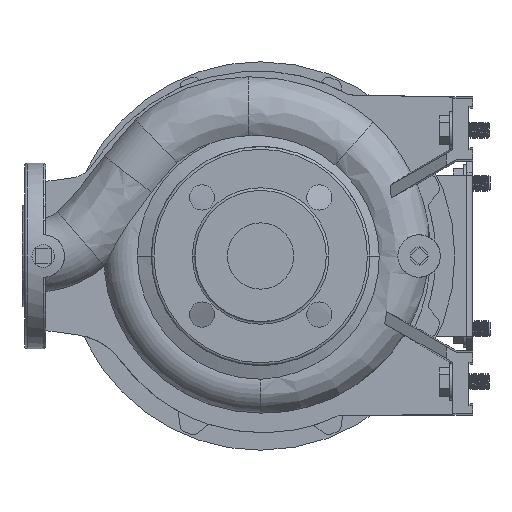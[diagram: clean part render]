
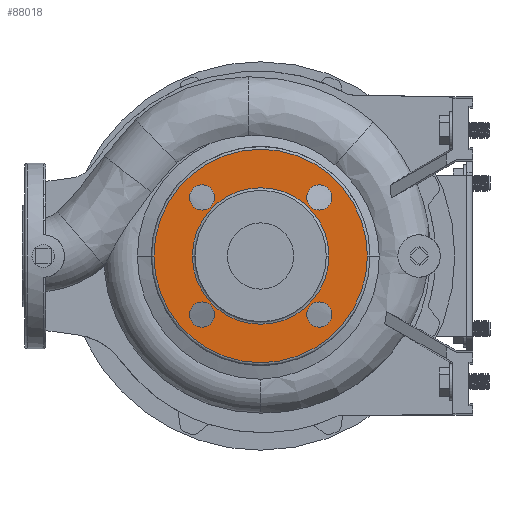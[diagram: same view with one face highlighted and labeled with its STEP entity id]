
A CAD part, left-side view. The second image highlights one B-rep face of the part: STEP entity #88018.
In plain terms, the highlighted planar face has unit normal (-1, 0, 0).
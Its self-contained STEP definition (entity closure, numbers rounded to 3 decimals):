
#1538 = CIRCLE ( 'NONE', #72734, 9.5 ) ;
#2069 = CARTESIAN_POINT ( 'NONE',  ( -78., 53.694, 44.194 ) ) ;
#2761 = VERTEX_POINT ( 'NONE', #114961 ) ;
#9303 = DIRECTION ( 'NONE',  ( 0., 0., -1. ) ) ;
#9353 = AXIS2_PLACEMENT_3D ( 'NONE', #168837, #165267, #97165 ) ;
#11106 = EDGE_CURVE ( 'NONE', #2761, #126364, #74223, .T. ) ;
#11445 = DIRECTION ( 'NONE',  ( -1., 0., 0. ) ) ;
#11639 = CARTESIAN_POINT ( 'NONE',  ( -78., 34.694, -44.194 ) ) ;
#12555 = DIRECTION ( 'NONE',  ( -1., 0., 0. ) ) ;
#14745 = VERTEX_POINT ( 'NONE', #135021 ) ;
#17141 = ORIENTED_EDGE ( 'NONE', *, *, #29037, .T. ) ;
#23513 = CARTESIAN_POINT ( 'NONE',  ( -78., 0., 0. ) ) ;
#24641 = CARTESIAN_POINT ( 'NONE',  ( -78., -53.694, -44.194 ) ) ;
#25511 = CIRCLE ( 'NONE', #173951, 9.5 ) ;
#26065 = CARTESIAN_POINT ( 'NONE',  ( -78., 44.194, -44.194 ) ) ;
#27038 = DIRECTION ( 'NONE',  ( 0., -1., 0. ) ) ;
#29037 = EDGE_CURVE ( 'NONE', #46709, #36636, #108275, .T. ) ;
#30869 = EDGE_LOOP ( 'NONE', ( #123791, #165277 ) ) ;
#36275 = FACE_OUTER_BOUND ( 'NONE', #173155, .T. ) ;
#36444 = CARTESIAN_POINT ( 'NONE',  ( -78., -44.194, 44.194 ) ) ;
#36636 = VERTEX_POINT ( 'NONE', #175436 ) ;
#37236 = FACE_BOUND ( 'NONE', #153064, .T. ) ;
#38169 = AXIS2_PLACEMENT_3D ( 'NONE', #43516, #12555, #161632 ) ;
#38207 = FACE_BOUND ( 'NONE', #43907, .T. ) ;
#38968 = AXIS2_PLACEMENT_3D ( 'NONE', #23513, #98024, #82557 ) ;
#43516 = CARTESIAN_POINT ( 'NONE',  ( -78., 0., 0. ) ) ;
#43907 = EDGE_LOOP ( 'NONE', ( #124056, #131622 ) ) ;
#46709 = VERTEX_POINT ( 'NONE', #50840 ) ;
#50826 = FACE_BOUND ( 'NONE', #95373, .T. ) ;
#50840 = CARTESIAN_POINT ( 'NONE',  ( -78., 80.5, 0. ) ) ;
#50994 = CARTESIAN_POINT ( 'NONE',  ( -78., -51.5, 0. ) ) ;
#51832 = CIRCLE ( 'NONE', #150752, 9.5 ) ;
#52522 = AXIS2_PLACEMENT_3D ( 'NONE', #172036, #186579, #53960 ) ;
#52733 = DIRECTION ( 'NONE',  ( 0., 1., 0. ) ) ;
#53960 = DIRECTION ( 'NONE',  ( 0., 0., -1. ) ) ;
#55139 = CARTESIAN_POINT ( 'NONE',  ( -78., 0., 0. ) ) ;
#58935 = DIRECTION ( 'NONE',  ( -1., 0., 0. ) ) ;
#60202 = EDGE_CURVE ( 'NONE', #14745, #126103, #167586, .T. ) ;
#61339 = DIRECTION ( 'NONE',  ( -1., 0., 0. ) ) ;
#62135 = AXIS2_PLACEMENT_3D ( 'NONE', #110810, #97254, #52733 ) ;
#67275 = FACE_BOUND ( 'NONE', #178079, .T. ) ;
#67415 = CARTESIAN_POINT ( 'NONE',  ( -78., 44.194, 44.194 ) ) ;
#71709 = ORIENTED_EDGE ( 'NONE', *, *, #129389, .F. ) ;
#72734 = AXIS2_PLACEMENT_3D ( 'NONE', #133201, #118689, #177742 ) ;
#74223 = CIRCLE ( 'NONE', #52522, 9.5 ) ;
#75804 = CARTESIAN_POINT ( 'NONE',  ( -78., 34.694, 44.194 ) ) ;
#78662 = CIRCLE ( 'NONE', #186861, 9.5 ) ;
#78946 = EDGE_CURVE ( 'NONE', #36636, #46709, #167936, .T. ) ;
#82243 = CARTESIAN_POINT ( 'NONE',  ( -78., 44.194, -44.194 ) ) ;
#82557 = DIRECTION ( 'NONE',  ( 0., -1., 0. ) ) ;
#82861 = DIRECTION ( 'NONE',  ( -1., 0., 0. ) ) ;
#83119 = CARTESIAN_POINT ( 'NONE',  ( -78., 0., 0. ) ) ;
#83177 = DIRECTION ( 'NONE',  ( 0., 0., 1. ) ) ;
#83702 = AXIS2_PLACEMENT_3D ( 'NONE', #55139, #100605, #27038 ) ;
#84000 = ORIENTED_EDGE ( 'NONE', *, *, #60202, .F. ) ;
#84079 = DIRECTION ( 'NONE',  ( 0., -1., 0. ) ) ;
#85850 = EDGE_CURVE ( 'NONE', #119959, #112572, #114467, .T. ) ;
#88018 = ADVANCED_FACE ( 'NONE', ( #67275, #38207, #50826, #94391, #37236, #36275 ), #154397, .F. ) ;
#89359 = VERTEX_POINT ( 'NONE', #2069 ) ;
#92838 = CARTESIAN_POINT ( 'NONE',  ( -78., -53.694, 44.194 ) ) ;
#93233 = DIRECTION ( 'NONE',  ( 0., -1., 0. ) ) ;
#94391 = FACE_BOUND ( 'NONE', #30869, .T. ) ;
#94533 = DIRECTION ( 'NONE',  ( 0., -1., 0. ) ) ;
#95373 = EDGE_LOOP ( 'NONE', ( #126195, #84000 ) ) ;
#96514 = VERTEX_POINT ( 'NONE', #75804 ) ;
#97165 = DIRECTION ( 'NONE',  ( 0., 1., 0. ) ) ;
#97254 = DIRECTION ( 'NONE',  ( 1., 0., 0. ) ) ;
#98024 = DIRECTION ( 'NONE',  ( -1., 0., 0. ) ) ;
#98345 = DIRECTION ( 'NONE',  ( -1., 0., 0. ) ) ;
#100605 = DIRECTION ( 'NONE',  ( -1., 0., 0. ) ) ;
#102631 = AXIS2_PLACEMENT_3D ( 'NONE', #26065, #58935, #146095 ) ;
#102972 = ORIENTED_EDGE ( 'NONE', *, *, #11106, .F. ) ;
#108275 = CIRCLE ( 'NONE', #133027, 80.5 ) ;
#110810 = CARTESIAN_POINT ( 'NONE',  ( -78., 51.5, 0. ) ) ;
#112572 = VERTEX_POINT ( 'NONE', #128201 ) ;
#114467 = CIRCLE ( 'NONE', #9353, 9.5 ) ;
#114961 = CARTESIAN_POINT ( 'NONE',  ( -78., -34.694, 44.194 ) ) ;
#115062 = EDGE_CURVE ( 'NONE', #126364, #2761, #163429, .T. ) ;
#118689 = DIRECTION ( 'NONE',  ( -1., 0., 0. ) ) ;
#119959 = VERTEX_POINT ( 'NONE', #24641 ) ;
#123791 = ORIENTED_EDGE ( 'NONE', *, *, #175681, .F. ) ;
#124056 = ORIENTED_EDGE ( 'NONE', *, *, #85850, .F. ) ;
#126103 = VERTEX_POINT ( 'NONE', #11639 ) ;
#126195 = ORIENTED_EDGE ( 'NONE', *, *, #189378, .F. ) ;
#126364 = VERTEX_POINT ( 'NONE', #92838 ) ;
#127528 = EDGE_CURVE ( 'NONE', #89359, #96514, #78662, .T. ) ;
#128201 = CARTESIAN_POINT ( 'NONE',  ( -78., -34.694, -44.194 ) ) ;
#129388 = ORIENTED_EDGE ( 'NONE', *, *, #78946, .T. ) ;
#129389 = EDGE_CURVE ( 'NONE', #143770, #174202, #159498, .T. ) ;
#131622 = ORIENTED_EDGE ( 'NONE', *, *, #168193, .F. ) ;
#133027 = AXIS2_PLACEMENT_3D ( 'NONE', #83119, #11445, #84079 ) ;
#133201 = CARTESIAN_POINT ( 'NONE',  ( -78., -44.194, -44.194 ) ) ;
#135021 = CARTESIAN_POINT ( 'NONE',  ( -78., 53.694, -44.194 ) ) ;
#142180 = CARTESIAN_POINT ( 'NONE',  ( -78., 51.5, 0. ) ) ;
#143770 = VERTEX_POINT ( 'NONE', #142180 ) ;
#145323 = AXIS2_PLACEMENT_3D ( 'NONE', #36444, #98345, #9303 ) ;
#146095 = DIRECTION ( 'NONE',  ( 0., 0., 1. ) ) ;
#150752 = AXIS2_PLACEMENT_3D ( 'NONE', #67415, #82861, #94533 ) ;
#151315 = CARTESIAN_POINT ( 'NONE',  ( -78., 44.194, 44.194 ) ) ;
#153064 = EDGE_LOOP ( 'NONE', ( #167580, #71709 ) ) ;
#154397 = PLANE ( 'NONE',  #62135 ) ;
#159498 = CIRCLE ( 'NONE', #38968, 51.5 ) ;
#160952 = CIRCLE ( 'NONE', #83702, 51.5 ) ;
#161632 = DIRECTION ( 'NONE',  ( 0., -1., 0. ) ) ;
#163429 = CIRCLE ( 'NONE', #145323, 9.5 ) ;
#165267 = DIRECTION ( 'NONE',  ( -1., 0., 0. ) ) ;
#165277 = ORIENTED_EDGE ( 'NONE', *, *, #127528, .F. ) ;
#167580 = ORIENTED_EDGE ( 'NONE', *, *, #183911, .F. ) ;
#167586 = CIRCLE ( 'NONE', #102631, 9.5 ) ;
#167936 = CIRCLE ( 'NONE', #38169, 80.5 ) ;
#168193 = EDGE_CURVE ( 'NONE', #112572, #119959, #1538, .T. ) ;
#168837 = CARTESIAN_POINT ( 'NONE',  ( -78., -44.194, -44.194 ) ) ;
#171300 = DIRECTION ( 'NONE',  ( -1., 0., 0. ) ) ;
#172036 = CARTESIAN_POINT ( 'NONE',  ( -78., -44.194, 44.194 ) ) ;
#173155 = EDGE_LOOP ( 'NONE', ( #129388, #17141 ) ) ;
#173951 = AXIS2_PLACEMENT_3D ( 'NONE', #82243, #171300, #83177 ) ;
#174202 = VERTEX_POINT ( 'NONE', #50994 ) ;
#175436 = CARTESIAN_POINT ( 'NONE',  ( -78., -80.5, 0. ) ) ;
#175681 = EDGE_CURVE ( 'NONE', #96514, #89359, #51832, .T. ) ;
#177742 = DIRECTION ( 'NONE',  ( 0., 1., 0. ) ) ;
#178079 = EDGE_LOOP ( 'NONE', ( #188981, #102972 ) ) ;
#183911 = EDGE_CURVE ( 'NONE', #174202, #143770, #160952, .T. ) ;
#186579 = DIRECTION ( 'NONE',  ( -1., 0., 0. ) ) ;
#186861 = AXIS2_PLACEMENT_3D ( 'NONE', #151315, #61339, #93233 ) ;
#188981 = ORIENTED_EDGE ( 'NONE', *, *, #115062, .F. ) ;
#189378 = EDGE_CURVE ( 'NONE', #126103, #14745, #25511, .T. ) ;
